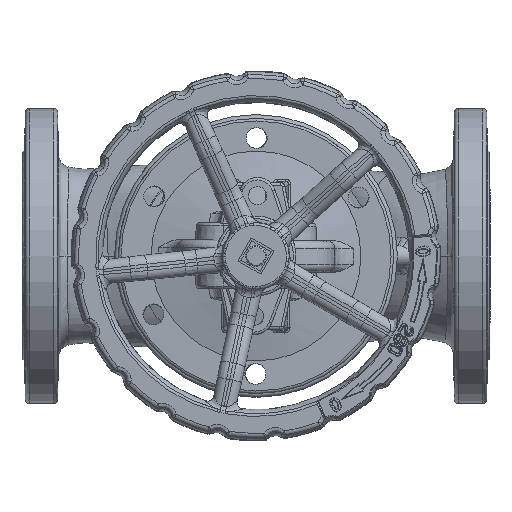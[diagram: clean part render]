
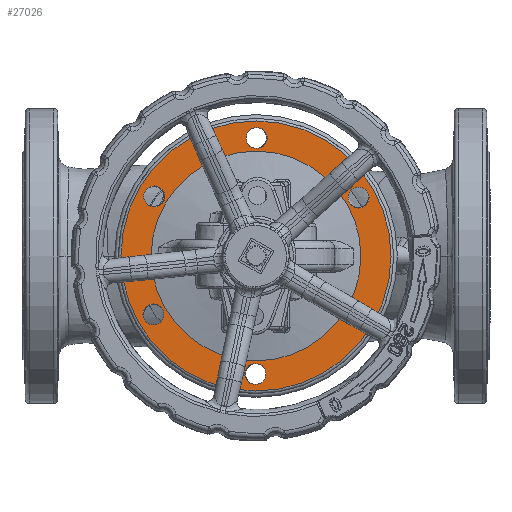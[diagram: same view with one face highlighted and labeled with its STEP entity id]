
A CAD part, front view. The second image highlights one B-rep face of the part: STEP entity #27026.
In plain terms, the highlighted planar face has unit normal (0, -1, 0) as drawn and (0, 0, 1) by its records, which use the part's own axes.
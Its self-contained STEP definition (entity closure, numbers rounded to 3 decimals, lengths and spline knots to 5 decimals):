
#869=FACE_BOUND('',#7652,.T.);
#870=FACE_BOUND('',#7653,.T.);
#871=FACE_BOUND('',#7654,.T.);
#872=FACE_BOUND('',#7655,.T.);
#873=FACE_BOUND('',#7656,.T.);
#874=FACE_BOUND('',#7657,.T.);
#875=FACE_BOUND('',#7658,.T.);
#1016=PLANE('',#29117);
#5905=FACE_OUTER_BOUND('',#7651,.T.);
#7651=EDGE_LOOP('',(#19152));
#7652=EDGE_LOOP('',(#19153));
#7653=EDGE_LOOP('',(#19154));
#7654=EDGE_LOOP('',(#19155));
#7655=EDGE_LOOP('',(#19156));
#7656=EDGE_LOOP('',(#19157));
#7657=EDGE_LOOP('',(#19158));
#7658=EDGE_LOOP('',(#19159));
#9201=CIRCLE('',#28637,0.08);
#9215=CIRCLE('',#28657,0.008);
#9217=CIRCLE('',#28660,0.008);
#9219=CIRCLE('',#28663,0.008);
#9221=CIRCLE('',#28666,0.008);
#9223=CIRCLE('',#28669,0.008);
#9225=CIRCLE('',#28672,0.008);
#9237=CIRCLE('',#28688,0.103);
#10776=VERTEX_POINT('',#38358);
#10836=VERTEX_POINT('',#39180);
#10838=VERTEX_POINT('',#39186);
#10840=VERTEX_POINT('',#39192);
#10842=VERTEX_POINT('',#39198);
#10844=VERTEX_POINT('',#39204);
#10846=VERTEX_POINT('',#39210);
#10857=VERTEX_POINT('',#39240);
#13410=EDGE_CURVE('',#10776,#10776,#9201,.T.);
#13477=EDGE_CURVE('',#10836,#10836,#9215,.T.);
#13480=EDGE_CURVE('',#10838,#10838,#9217,.T.);
#13483=EDGE_CURVE('',#10840,#10840,#9219,.T.);
#13486=EDGE_CURVE('',#10842,#10842,#9221,.T.);
#13489=EDGE_CURVE('',#10844,#10844,#9223,.T.);
#13492=EDGE_CURVE('',#10846,#10846,#9225,.T.);
#13507=EDGE_CURVE('',#10857,#10857,#9237,.T.);
#19152=ORIENTED_EDGE('',*,*,#13507,.T.);
#19153=ORIENTED_EDGE('',*,*,#13410,.T.);
#19154=ORIENTED_EDGE('',*,*,#13477,.T.);
#19155=ORIENTED_EDGE('',*,*,#13480,.T.);
#19156=ORIENTED_EDGE('',*,*,#13483,.T.);
#19157=ORIENTED_EDGE('',*,*,#13486,.T.);
#19158=ORIENTED_EDGE('',*,*,#13489,.T.);
#19159=ORIENTED_EDGE('',*,*,#13492,.T.);
#27026=ADVANCED_FACE('',(#5905,#869,#870,#871,#872,#873,#874,#875),#1016,
 .F.);
#28637=AXIS2_PLACEMENT_3D('',#38359,#31494,#31495);
#28657=AXIS2_PLACEMENT_3D('',#39182,#31540,#31541);
#28660=AXIS2_PLACEMENT_3D('',#39188,#31547,#31548);
#28663=AXIS2_PLACEMENT_3D('',#39194,#31554,#31555);
#28666=AXIS2_PLACEMENT_3D('',#39200,#31561,#31562);
#28669=AXIS2_PLACEMENT_3D('',#39206,#31568,#31569);
#28672=AXIS2_PLACEMENT_3D('',#39212,#31575,#31576);
#28688=AXIS2_PLACEMENT_3D('',#39242,#31610,#31611);
#29117=AXIS2_PLACEMENT_3D('',#43036,#32710,#32711);
#31494=DIRECTION('center_axis',(0.,0.,-1.));
#31495=DIRECTION('ref_axis',(-1.,0.,0.));
#31540=DIRECTION('center_axis',(0.,0.,-1.));
#31541=DIRECTION('ref_axis',(-1.,0.,0.));
#31547=DIRECTION('center_axis',(0.,0.,-1.));
#31548=DIRECTION('ref_axis',(-1.,0.,0.));
#31554=DIRECTION('center_axis',(0.,0.,-1.));
#31555=DIRECTION('ref_axis',(-1.,0.,0.));
#31561=DIRECTION('center_axis',(0.,0.,-1.));
#31562=DIRECTION('ref_axis',(-1.,0.,0.));
#31568=DIRECTION('center_axis',(0.,0.,-1.));
#31569=DIRECTION('ref_axis',(-1.,0.,0.));
#31575=DIRECTION('center_axis',(0.,0.,-1.));
#31576=DIRECTION('ref_axis',(-1.,0.,0.));
#31610=DIRECTION('center_axis',(0.,0.,1.));
#31611=DIRECTION('ref_axis',(-1.,0.,0.));
#32710=DIRECTION('center_axis',(0.,0.,-1.));
#32711=DIRECTION('ref_axis',(0.,-1.,0.));
#38358=CARTESIAN_POINT('',(0.08,0.,0.024));
#38359=CARTESIAN_POINT('Origin',(0.,0.,0.024));
#39180=CARTESIAN_POINT('',(0.06994,0.045,0.024));
#39182=CARTESIAN_POINT('Origin',(0.07794,0.045,0.024));
#39186=CARTESIAN_POINT('',(-0.08594,-0.045,0.024));
#39188=CARTESIAN_POINT('Origin',(-0.07794,-0.045,0.024));
#39192=CARTESIAN_POINT('',(0.06994,-0.045,0.024));
#39194=CARTESIAN_POINT('Origin',(0.07794,-0.045,0.024));
#39198=CARTESIAN_POINT('',(-0.008,0.09,0.024));
#39200=CARTESIAN_POINT('Origin',(0.,0.09,0.024));
#39204=CARTESIAN_POINT('',(-0.008,-0.09,0.024));
#39206=CARTESIAN_POINT('Origin',(0.,-0.09,0.024));
#39210=CARTESIAN_POINT('',(-0.08594,0.045,0.024));
#39212=CARTESIAN_POINT('Origin',(-0.07794,0.045,0.024));
#39240=CARTESIAN_POINT('',(0.103,0.,0.024));
#39242=CARTESIAN_POINT('Origin',(0.,0.,0.024));
#43036=CARTESIAN_POINT('Origin',(0.08,0.,0.024));
